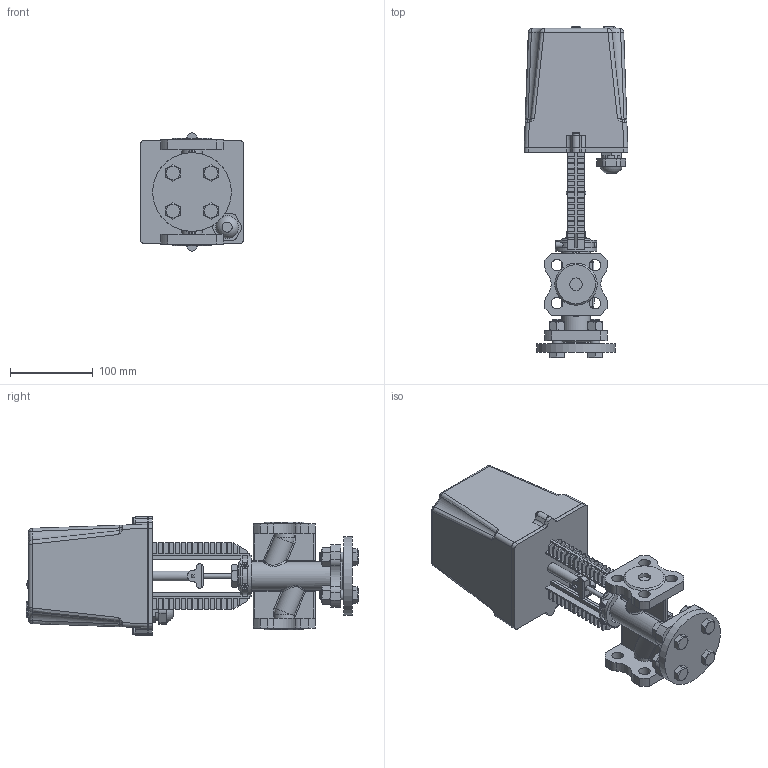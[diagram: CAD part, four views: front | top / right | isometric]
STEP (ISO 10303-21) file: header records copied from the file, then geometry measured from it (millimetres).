
FILE_DESCRIPTION(('STEP AP242'), '1');
FILE_NAME('VSR1-13V-PED-F Êëàïàí çàïîðíî-ðåãóëèðóþùèé DN.ru Äó15 Ðó16', '', ('UNSPECIFIED'), ('UNSPECIFIED'), 'C3D Converter', 'C3D Toolkit', '');
FILE_SCHEMA(('AP242_MANAGED_MODEL_BASED_3D_ENGINEERING_MIM_LF { 1 0 10303 442 1 1 4 }'));
Length unit declared in the file: millimetre
Products named in the file (1): VSR1-13V-PED-F
Bounding box: 125 x 401 x 143 mm (x, y, z)
Volume: 2623112.6 mm3; surface area: 248837.4 mm2
Topology: 1 solids, 2 shells, 1389 faces, 3769 edges, 2370 vertices
Faces by surface type: plane 721, cylinder 310, extrusion 141, bspline 99, torus 49, cone 35, sphere 34
Full cylindrical faces by diameter (mm): 4 x5, 6 x1, 7 x2, 7.5 x3, 12 x10, 14 x16, 15 x3, 25 x1, 35 x1, 50 x1, 95 x1
Entity records: 62347 total; most frequent: CARTESIAN_POINT 21736, ORIENTED_EDGE 7216, DIRECTION 6182, EDGE_CURVE 3608, VECTOR 2360, VERTEX_POINT 2357, LINE 2219, AXIS2_PLACEMENT_3D 1911
